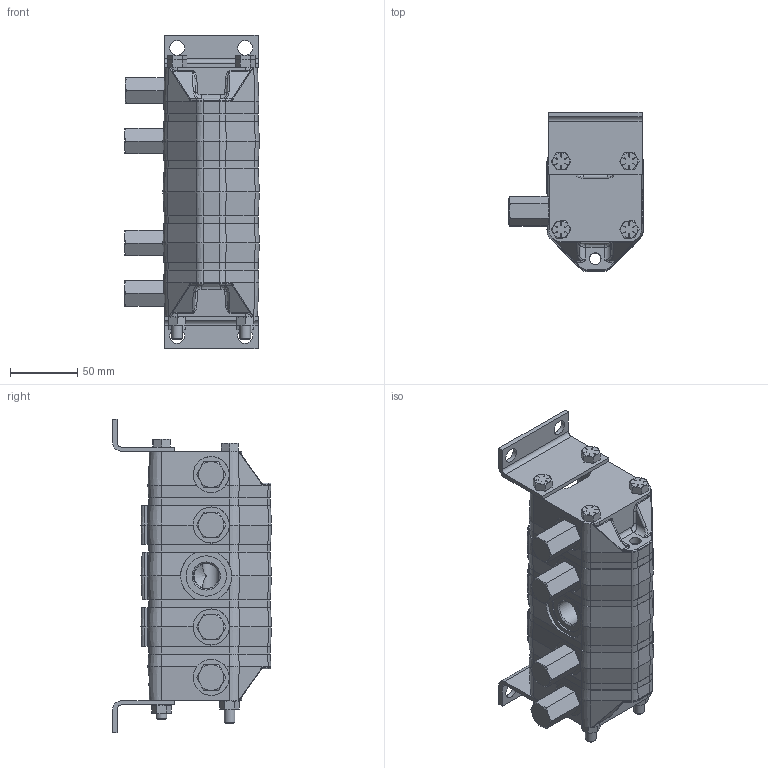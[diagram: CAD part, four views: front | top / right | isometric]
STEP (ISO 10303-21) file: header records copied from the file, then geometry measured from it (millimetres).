
FILE_DESCRIPTION(/* description */ (''),/* implementation_level */ '2;1');
FILE_NAME(/* name */ 'C:\Users\kevin\Desktop\RELATED\PPM2RV.stp',/* time_stamp */ '2014-03-07T13:31:57-06:00',/* author */ ('kevin'),/* organization */ (''),/* preprocessor_version */ 'ST-DEVELOPER v15.2',/* originating_system */ 'Autodesk Inventor 2014',/* authorisation */ '');
FILE_SCHEMA (('AUTOMOTIVE_DESIGN { 1 0 10303 214 3 1 1 }'));
Length unit declared in the file: inch
Products named in the file (1): 85003375_Shrinkwrap_1
Bounding box: 100.46 x 118.48 x 233.76 mm (x, y, z)
Surface area: 152756.6 mm2 (no closed solid volume)
Topology: 0 solids, 27 shells, 579 faces, 1739 edges, 1165 vertices
Faces by surface type: plane 248, cone 188, cylinder 89, bspline 46, torus 8
Full cylindrical faces by diameter (mm): 7.938 x4, 8.738 x2, 11.125 x4, 11.506 x2, 11.836 x2, 12.7 x5, 18.999 x1, 21.996 x4, 25.4 x4, 26.924 x4, 29.997 x1
Entity records: 23704 total; most frequent: CARTESIAN_POINT 8626, DIRECTION 2978, ORIENTED_EDGE 2789, EDGE_CURVE 1639, AXIS2_PLACEMENT_3D 1145, VERTEX_POINT 1126, EDGE_LOOP 757, LINE 688
